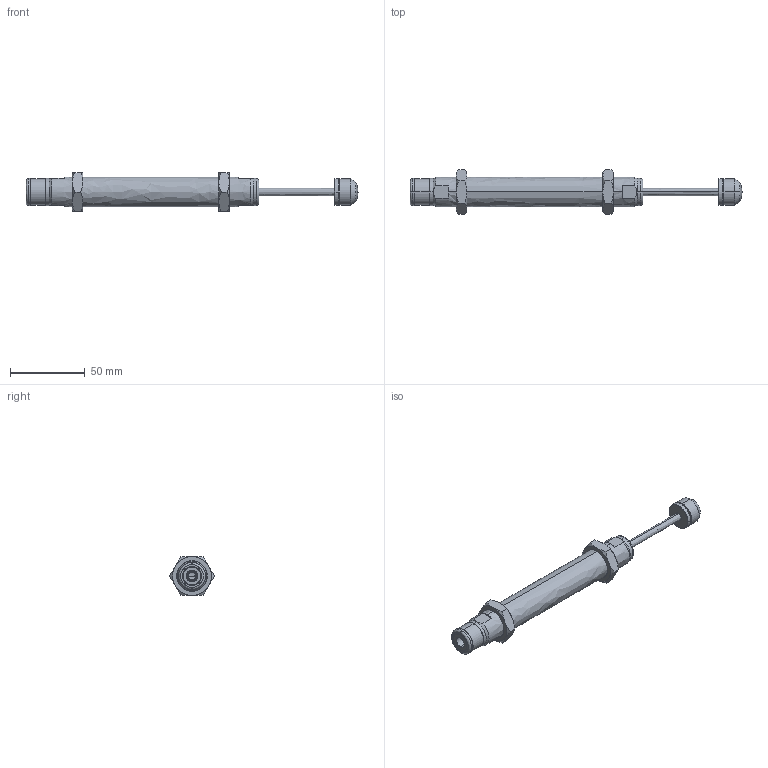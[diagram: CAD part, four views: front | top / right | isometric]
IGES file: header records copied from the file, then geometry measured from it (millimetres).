
Start section: SolidWorks IGES file using analytic representation for surfaces
Global section: file name: D:\IGS跡宒\AC2050-11K.IGS,1; native system: 5HSolidWorks 2013; preprocessor: SolidWorks 2013; author: Administrator; date: 160406.154214; units: inch
Bounding box: 222.3 x 30.02 x 26 mm (x, y, z)
Surface area: 15882 mm2 (no closed solid volume)
Topology: 0 solids, 0 shells, 113 faces, 1756 edges, 1755 vertices
Faces by surface type: revolution 76, bspline 37
